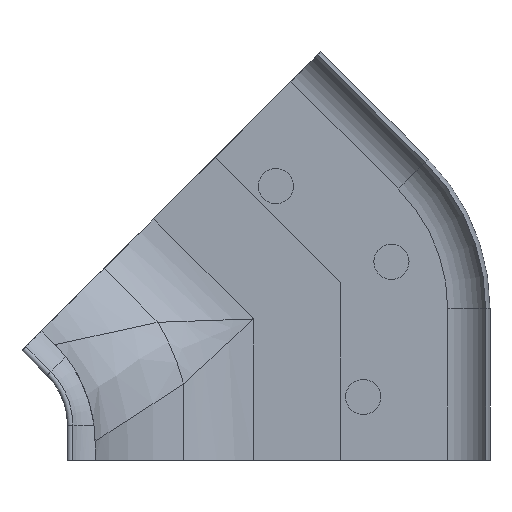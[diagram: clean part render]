
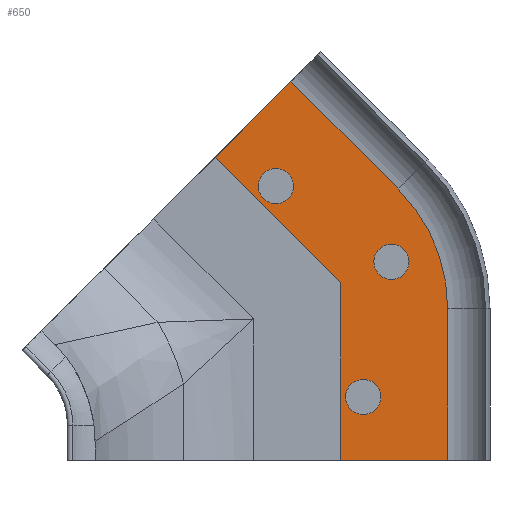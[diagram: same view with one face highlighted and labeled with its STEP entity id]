
A CAD part, front view. The second image highlights one B-rep face of the part: STEP entity #650.
In plain terms, the highlighted planar face has unit normal (0, -1, 0).
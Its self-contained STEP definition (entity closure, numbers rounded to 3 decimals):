
#47 = EDGE_CURVE ( 'NONE', #985, #528, #1953, .T. ) ;
#87 = ORIENTED_EDGE ( 'NONE', *, *, #1089, .T. ) ;
#137 = CARTESIAN_POINT ( 'NONE',  ( -3.005, 0., 10.787 ) ) ;
#150 = VERTEX_POINT ( 'NONE', #1972 ) ;
#187 = VERTEX_POINT ( 'NONE', #342 ) ;
#195 = EDGE_LOOP ( 'NONE', ( #1863 ) ) ;
#220 = VERTEX_POINT ( 'NONE', #389 ) ;
#332 = DIRECTION ( 'NONE',  ( -0.707, 0., 0.707 ) ) ;
#342 = CARTESIAN_POINT ( 'NONE',  ( -7., 0., 15.351 ) ) ;
#347 = FACE_BOUND ( 'NONE', #1230, .T. ) ;
#387 = ORIENTED_EDGE ( 'NONE', *, *, #1834, .T. ) ;
#389 = CARTESIAN_POINT ( 'NONE',  ( -6.518, 0., 19.269 ) ) ;
#415 = DIRECTION ( 'NONE',  ( 0., 0., -1. ) ) ;
#461 = DIRECTION ( 'NONE',  ( 0.707, 0., 0.707 ) ) ;
#466 = ORIENTED_EDGE ( 'NONE', *, *, #1724, .F. ) ;
#516 = VERTEX_POINT ( 'NONE', #137 ) ;
#528 = VERTEX_POINT ( 'NONE', #740 ) ;
#564 = LINE ( 'NONE', #999, #1255 ) ;
#587 = CIRCLE ( 'NONE', #1674, 11.995 ) ;
#589 = AXIS2_PLACEMENT_3D ( 'NONE', #1342, #1333, #1767 ) ;
#592 = DIRECTION ( 'NONE',  ( 0., 1., 0. ) ) ;
#627 = DIRECTION ( 'NONE',  ( 0., 0., 1. ) ) ;
#628 = DIRECTION ( 'NONE',  ( 0., 1., 0. ) ) ;
#637 = CARTESIAN_POINT ( 'NONE',  ( -15., 0., 10.787 ) ) ;
#644 = VECTOR ( 'NONE', #1076, 1000. ) ;
#650 = ADVANCED_FACE ( 'NONE', ( #1421, #347, #1431, #1865 ), #1726, .F. ) ;
#711 = AXIS2_PLACEMENT_3D ( 'NONE', #1394, #628, #1228 ) ;
#713 = EDGE_LOOP ( 'NONE', ( #1723, #1535, #1713, #87, #387, #466, #808 ) ) ;
#740 = CARTESIAN_POINT ( 'NONE',  ( -19.516, 0., 21.525 ) ) ;
#758 = LINE ( 'NONE', #1664, #644 ) ;
#762 = EDGE_CURVE ( 'NONE', #516, #220, #587, .T. ) ;
#777 = CARTESIAN_POINT ( 'NONE',  ( -19.516, 0., 21.525 ) ) ;
#787 = DIRECTION ( 'NONE',  ( 0., -1., 0. ) ) ;
#792 = CARTESIAN_POINT ( 'NONE',  ( -10.6, 0., 0. ) ) ;
#808 = ORIENTED_EDGE ( 'NONE', *, *, #762, .T. ) ;
#809 = VECTOR ( 'NONE', #1541, 1000. ) ;
#815 = EDGE_CURVE ( 'NONE', #187, #187, #1319, .T. ) ;
#906 = VECTOR ( 'NONE', #461, 1000. ) ;
#985 = VERTEX_POINT ( 'NONE', #1876 ) ;
#999 = CARTESIAN_POINT ( 'NONE',  ( -3.005, 0., 10.787 ) ) ;
#1039 = CIRCLE ( 'NONE', #1492, 1.25 ) ;
#1071 = DIRECTION ( 'NONE',  ( 0., 0., -1. ) ) ;
#1076 = DIRECTION ( 'NONE',  ( -0.707, 0., 0.707 ) ) ;
#1077 = DIRECTION ( 'NONE',  ( 0., 0., 1. ) ) ;
#1089 = EDGE_CURVE ( 'NONE', #985, #1277, #1188, .T. ) ;
#1107 = EDGE_CURVE ( 'NONE', #150, #150, #1451, .T. ) ;
#1153 = EDGE_CURVE ( 'NONE', #220, #1920, #758, .T. ) ;
#1159 = CARTESIAN_POINT ( 'NONE',  ( -10.6, 0., 45.713 ) ) ;
#1188 = LINE ( 'NONE', #1159, #1793 ) ;
#1189 = EDGE_CURVE ( 'NONE', #528, #1920, #1965, .T. ) ;
#1190 = CARTESIAN_POINT ( 'NONE',  ( -10.6, 0., 0. ) ) ;
#1221 = ORIENTED_EDGE ( 'NONE', *, *, #1107, .T. ) ;
#1228 = DIRECTION ( 'NONE',  ( 0., 0., 1. ) ) ;
#1230 = EDGE_LOOP ( 'NONE', ( #1817 ) ) ;
#1240 = CARTESIAN_POINT ( 'NONE',  ( -10.6, 0., 45.713 ) ) ;
#1255 = VECTOR ( 'NONE', #415, 1000. ) ;
#1277 = VERTEX_POINT ( 'NONE', #792 ) ;
#1319 = CIRCLE ( 'NONE', #711, 1.25 ) ;
#1333 = DIRECTION ( 'NONE',  ( 0., 1., 0. ) ) ;
#1342 = CARTESIAN_POINT ( 'NONE',  ( -9., 0., 4.5 ) ) ;
#1375 = CARTESIAN_POINT ( 'NONE',  ( -14.146, 0., 26.896 ) ) ;
#1394 = CARTESIAN_POINT ( 'NONE',  ( -7., 0., 14.101 ) ) ;
#1421 = FACE_BOUND ( 'NONE', #1568, .T. ) ;
#1431 = FACE_BOUND ( 'NONE', #195, .T. ) ;
#1451 = CIRCLE ( 'NONE', #589, 1.25 ) ;
#1492 = AXIS2_PLACEMENT_3D ( 'NONE', #1526, #592, #1077 ) ;
#1506 = CARTESIAN_POINT ( 'NONE',  ( 12.808, 0., -10.798 ) ) ;
#1526 = CARTESIAN_POINT ( 'NONE',  ( -15.203, 0., 19.475 ) ) ;
#1535 = ORIENTED_EDGE ( 'NONE', *, *, #1189, .F. ) ;
#1537 = VERTEX_POINT ( 'NONE', #1811 ) ;
#1541 = DIRECTION ( 'NONE',  ( 1., 0., 0. ) ) ;
#1545 = VERTEX_POINT ( 'NONE', #1785 ) ;
#1568 = EDGE_LOOP ( 'NONE', ( #1221 ) ) ;
#1607 = VECTOR ( 'NONE', #332, 1000. ) ;
#1664 = CARTESIAN_POINT ( 'NONE',  ( -6.518, 0., 19.269 ) ) ;
#1674 = AXIS2_PLACEMENT_3D ( 'NONE', #637, #787, #1071 ) ;
#1713 = ORIENTED_EDGE ( 'NONE', *, *, #47, .F. ) ;
#1723 = ORIENTED_EDGE ( 'NONE', *, *, #1153, .T. ) ;
#1724 = EDGE_CURVE ( 'NONE', #516, #1545, #564, .T. ) ;
#1726 = PLANE ( 'NONE',  #1823 ) ;
#1767 = DIRECTION ( 'NONE',  ( 0., 0., 1. ) ) ;
#1774 = DIRECTION ( 'NONE',  ( 0., 0., -1. ) ) ;
#1785 = CARTESIAN_POINT ( 'NONE',  ( -3.005, 0., 0. ) ) ;
#1788 = EDGE_CURVE ( 'NONE', #1537, #1537, #1039, .T. ) ;
#1793 = VECTOR ( 'NONE', #1774, 1000. ) ;
#1811 = CARTESIAN_POINT ( 'NONE',  ( -15.203, 0., 20.725 ) ) ;
#1817 = ORIENTED_EDGE ( 'NONE', *, *, #815, .T. ) ;
#1823 = AXIS2_PLACEMENT_3D ( 'NONE', #1240, #1853, #627 ) ;
#1834 = EDGE_CURVE ( 'NONE', #1277, #1545, #1967, .T. ) ;
#1853 = DIRECTION ( 'NONE',  ( 0., 1., 0. ) ) ;
#1863 = ORIENTED_EDGE ( 'NONE', *, *, #1788, .T. ) ;
#1865 = FACE_OUTER_BOUND ( 'NONE', #713, .T. ) ;
#1876 = CARTESIAN_POINT ( 'NONE',  ( -10.6, 0., 12.609 ) ) ;
#1920 = VERTEX_POINT ( 'NONE', #1375 ) ;
#1953 = LINE ( 'NONE', #1506, #1607 ) ;
#1965 = LINE ( 'NONE', #777, #906 ) ;
#1967 = LINE ( 'NONE', #1190, #809 ) ;
#1972 = CARTESIAN_POINT ( 'NONE',  ( -9., 0., 5.75 ) ) ;
